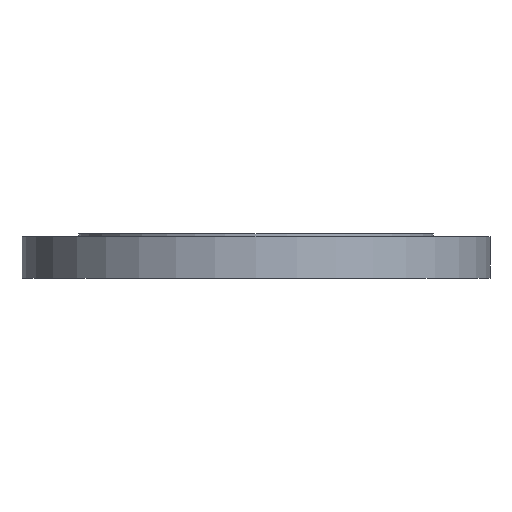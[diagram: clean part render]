
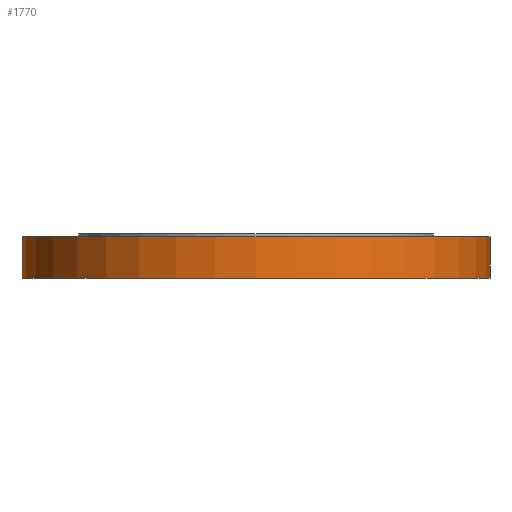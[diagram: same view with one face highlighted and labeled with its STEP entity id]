
A CAD part, front view. The second image highlights one B-rep face of the part: STEP entity #1770.
In plain terms, the highlighted cylindrical face has radius 445 mm (diameter 890 mm), a partial arc.
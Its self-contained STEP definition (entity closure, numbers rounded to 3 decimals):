
#1 = DIRECTION ( 'NONE',  ( 1., 0., 0. ) ) ;
#2 = DIRECTION ( 'NONE',  ( 0., 0., 1. ) ) ;
#3 = CARTESIAN_POINT ( 'NONE',  ( 0., 0., -150. ) ) ;
#4 = CYLINDRICAL_SURFACE ( 'NONE', #829, 445. ) ;
#5 = FACE_OUTER_BOUND ( 'NONE', #1420, .T. ) ;
#84 = EDGE_CURVE ( 'NONE', #1464, #1608, #1053, .T. ) ;
#122 = CARTESIAN_POINT ( 'NONE',  ( -445., 0., -84. ) ) ;
#167 = EDGE_CURVE ( 'NONE', #1608, #1280, #1605, .T. ) ;
#235 = AXIS2_PLACEMENT_3D ( 'NONE', #427, #426, #424 ) ;
#250 = CARTESIAN_POINT ( 'NONE',  ( 445., 0., -5.5 ) ) ;
#393 = CARTESIAN_POINT ( 'NONE',  ( 445., 0., -84. ) ) ;
#424 = DIRECTION ( 'NONE',  ( -1., 0., 0. ) ) ;
#426 = DIRECTION ( 'NONE',  ( 0., 0., -1. ) ) ;
#427 = CARTESIAN_POINT ( 'NONE',  ( 0., 0., -84. ) ) ;
#507 = CARTESIAN_POINT ( 'NONE',  ( -445., 0., -5.5 ) ) ;
#692 = DIRECTION ( 'NONE',  ( 0., 0., 1. ) ) ;
#694 = CARTESIAN_POINT ( 'NONE',  ( -445., 0., -150. ) ) ;
#696 = LINE ( 'NONE', #694, #1351 ) ;
#708 = VECTOR ( 'NONE', #1050, 1000. ) ;
#732 = AXIS2_PLACEMENT_3D ( 'NONE', #1021, #1020, #1019 ) ;
#816 = CIRCLE ( 'NONE', #235, 445. ) ;
#829 = AXIS2_PLACEMENT_3D ( 'NONE', #3, #2, #1 ) ;
#878 = EDGE_CURVE ( 'NONE', #1686, #1280, #696, .T. ) ;
#1019 = DIRECTION ( 'NONE',  ( -1., 0., 0. ) ) ;
#1020 = DIRECTION ( 'NONE',  ( 0., 0., -1. ) ) ;
#1021 = CARTESIAN_POINT ( 'NONE',  ( 0., 0., -5.5 ) ) ;
#1050 = DIRECTION ( 'NONE',  ( 0., 0., 1. ) ) ;
#1052 = CARTESIAN_POINT ( 'NONE',  ( 445., 0., -150. ) ) ;
#1053 = LINE ( 'NONE', #1052, #708 ) ;
#1113 = ORIENTED_EDGE ( 'NONE', *, *, #878, .F. ) ;
#1276 = ORIENTED_EDGE ( 'NONE', *, *, #1439, .F. ) ;
#1280 = VERTEX_POINT ( 'NONE', #507 ) ;
#1351 = VECTOR ( 'NONE', #692, 1000. ) ;
#1420 = EDGE_LOOP ( 'NONE', ( #1113, #1276, #1423, #1422 ) ) ;
#1422 = ORIENTED_EDGE ( 'NONE', *, *, #167, .T. ) ;
#1423 = ORIENTED_EDGE ( 'NONE', *, *, #84, .T. ) ;
#1439 = EDGE_CURVE ( 'NONE', #1464, #1686, #816, .T. ) ;
#1464 = VERTEX_POINT ( 'NONE', #393 ) ;
#1605 = CIRCLE ( 'NONE', #732, 445. ) ;
#1608 = VERTEX_POINT ( 'NONE', #250 ) ;
#1686 = VERTEX_POINT ( 'NONE', #122 ) ;
#1770 = ADVANCED_FACE ( 'NONE', ( #5 ), #4, .T. ) ;
